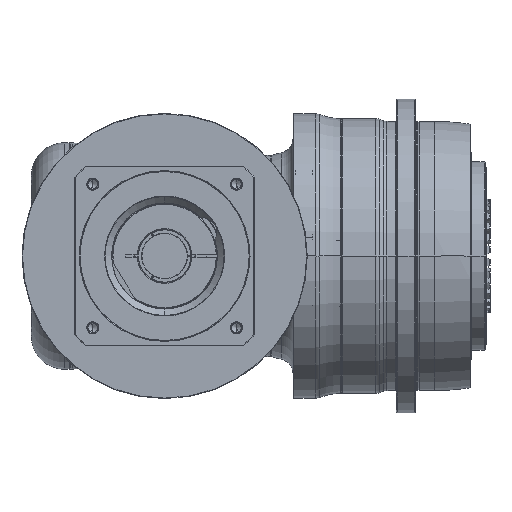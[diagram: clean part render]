
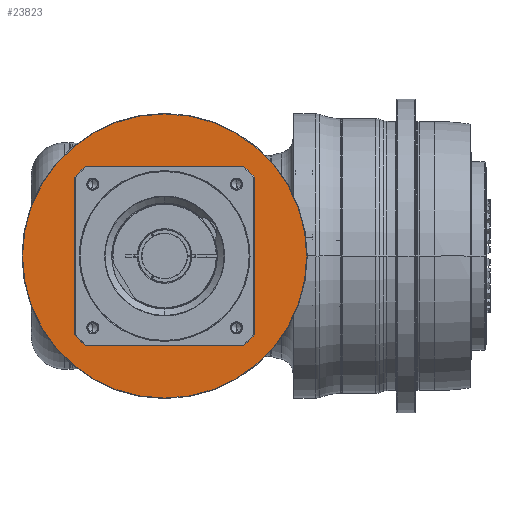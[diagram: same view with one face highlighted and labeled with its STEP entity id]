
A CAD part, front view. The second image highlights one B-rep face of the part: STEP entity #23823.
In plain terms, the highlighted planar face has unit normal (0, -1, 0) as drawn and (1, 0, 0) by its records, which use the part's own axes.
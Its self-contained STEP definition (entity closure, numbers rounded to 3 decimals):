
#23350=CARTESIAN_POINT('',(-5.,0.,
0.));
#23351=DIRECTION('',(-1.,0.,0.));
#23352=DIRECTION('',(0.,1.,0.));
#23353=AXIS2_PLACEMENT_3D('',#23350,#23351,#23352);
#23355=CARTESIAN_POINT('',(-5.,0.,
0.));
#23356=DIRECTION('',(-1.,0.,0.));
#23357=DIRECTION('',(0.,-1.,0.));
#23358=AXIS2_PLACEMENT_3D('',#23355,#23356,#23357);
#23360=CARTESIAN_POINT('',(-5.,0.,0.));
#23361=DIRECTION('',(-1.,0.,0.));
#23362=DIRECTION('',(0.,-1.,0.));
#23363=AXIS2_PLACEMENT_3D('',#23360,#23361,#23362);
#23365=CARTESIAN_POINT('',(-5.,0.,0.));
#23366=DIRECTION('',(-1.,0.,0.));
#23367=DIRECTION('',(0.,1.,0.));
#23368=AXIS2_PLACEMENT_3D('',#23365,#23366,#23367);
#23394=CARTESIAN_POINT('',(-5.,-150.5,0.));
#23395=CARTESIAN_POINT('',(-5.,150.5,0.));
#23396=VERTEX_POINT('',#23394);
#23397=VERTEX_POINT('',#23395);
#23442=CARTESIAN_POINT('',(-5.,95.,
0.));
#23443=CARTESIAN_POINT('',(-5.,-95.,0.));
#23444=VERTEX_POINT('',#23442);
#23445=VERTEX_POINT('',#23443);
#23808=CARTESIAN_POINT('',(-5.,0.,0.));
#23809=DIRECTION('',(1.,0.,0.));
#23810=DIRECTION('',(0.,-1.,0.));
#23811=AXIS2_PLACEMENT_3D('',#23808,#23809,#23810);
#23812=PLANE('',#23811);
#23813=ORIENTED_EDGE('',*,*,#23749,.T.);
#23814=ORIENTED_EDGE('',*,*,#23764,.T.);
#23815=EDGE_LOOP('',(#23813,#23814));
#23816=FACE_OUTER_BOUND('',#23815,.F.);
#23818=ORIENTED_EDGE('',*,*,#23817,.F.);
#23820=ORIENTED_EDGE('',*,*,#23819,.F.);
#23821=EDGE_LOOP('',(#23818,#23820));
#23822=FACE_BOUND('',#23821,.F.);
#23823=ADVANCED_FACE('',(#23816,#23822),#23812,.T.);
#23354=CIRCLE('',#23353,95.);
#23359=CIRCLE('',#23358,95.);
#23364=CIRCLE('',#23363,150.5);
#23369=CIRCLE('',#23368,150.5);
#23749=EDGE_CURVE('',#23396,#23397,#23364,.T.);
#23764=EDGE_CURVE('',#23397,#23396,#23369,.T.);
#23817=EDGE_CURVE('',#23444,#23445,#23354,.T.);
#23819=EDGE_CURVE('',#23445,#23444,#23359,.T.);
